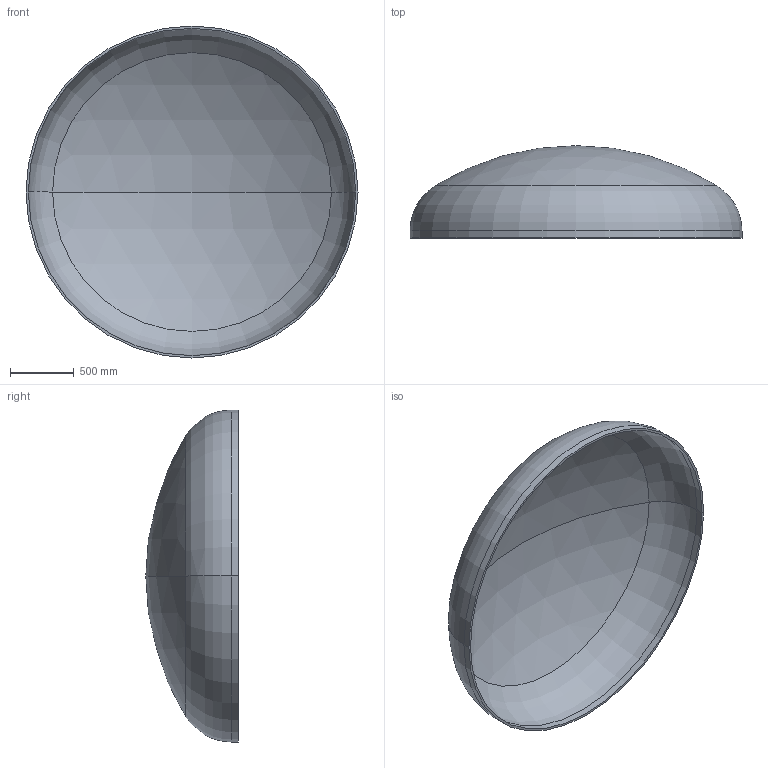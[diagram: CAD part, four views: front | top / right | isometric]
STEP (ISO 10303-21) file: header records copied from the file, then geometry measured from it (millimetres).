
FILE_DESCRIPTION (( 'STEP AP203' ), '1' );
FILE_NAME ('DIN 28013 Korbbogenform_-_Boden DIN 28013 - 2600 x 55 - I - s=18.step', '2016-07-01T15:57:29', ( '' ), ( '' ), 'SwSTEP 2.0', 'SolidWorks 2013', '' );
FILE_SCHEMA (( 'CONFIG_CONTROL_DESIGN' ));
Length unit declared in the file: millimetre
Products named in the file (1): DIN 28013 Korbbogenform_-_Boden DIN 28013 - 2600 x 55 - I - s=18
Bounding box: 2600 x 723.15 x 2600 mm (x, y, z)
Volume: 139159859.9 mm3; surface area: 15608887.9 mm2
Topology: 1 solids, 1 shells, 13 faces, 24 edges, 14 vertices
Faces by surface type: torus 4, cylinder 4, sphere 4, plane 1
Entity records: 407 total; most frequent: DIRECTION 72, CARTESIAN_POINT 52, ORIENTED_EDGE 48, AXIS2_PLACEMENT_3D 34, EDGE_CURVE 24, CIRCLE 20, VERTEX_POINT 14, EDGE_LOOP 14
